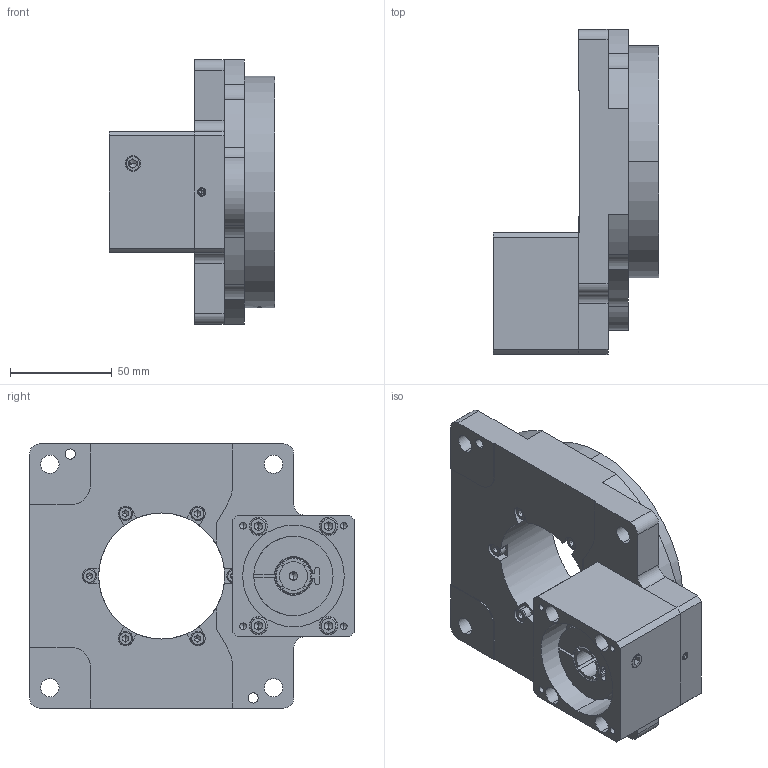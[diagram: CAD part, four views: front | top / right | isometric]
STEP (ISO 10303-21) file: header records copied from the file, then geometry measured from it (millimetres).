
FILE_DESCRIPTION (( 'STEP AP214' ), '1' );
FILE_NAME ('130-10(2).STEP', '2020-03-24T02:41:55', ( '微软用户' ), ( '微软中国' ), 'SwSTEP 2.0', 'SolidWorks 2014', '' );
FILE_SCHEMA (( 'AUTOMOTIVE_DESIGN' ));
Length unit declared in the file: millimetre
Products named in the file (2): 130-10(2)
Bounding box: 81.5 x 159.8 x 130 mm (x, y, z)
Volume: 556377.1 mm3; surface area: 92832.3 mm2
Topology: 14 solids, 14 shells, 612 faces, 1476 edges, 889 vertices
Faces by surface type: plane 272, cylinder 195, cone 125, bspline 20
Entity records: 18051 total; most frequent: CARTESIAN_POINT 3609, DIRECTION 3149, ORIENTED_EDGE 2832, EDGE_CURVE 1416, AXIS2_PLACEMENT_3D 1185, VERTEX_POINT 889, LINE 779, VECTOR 779
